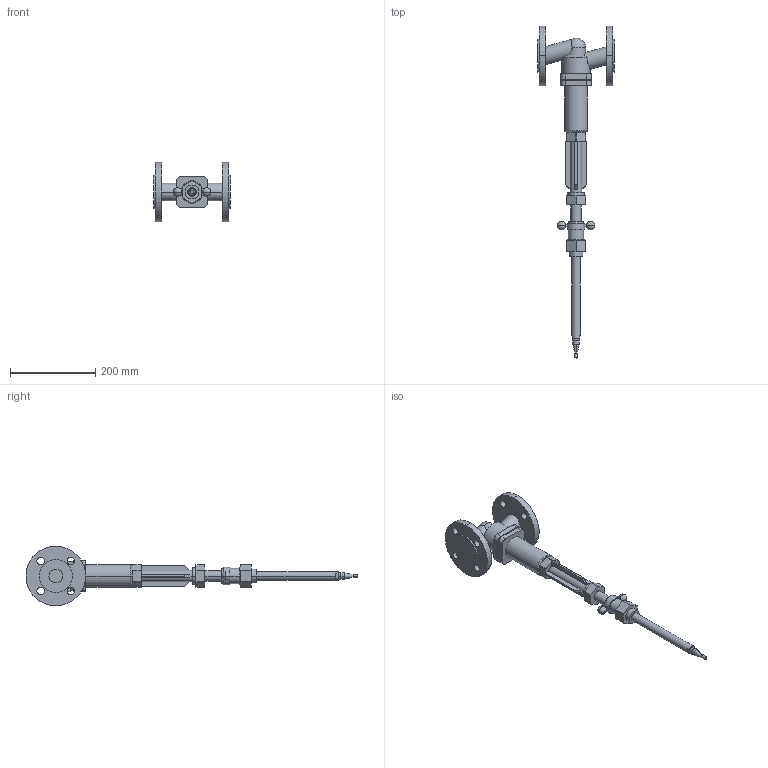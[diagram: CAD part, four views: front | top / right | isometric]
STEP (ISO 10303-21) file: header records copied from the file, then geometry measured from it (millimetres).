
FILE_DESCRIPTION(('CoCreate Modeling STEP Export'),'2;1');
FILE_NAME('c000001251.stp','2011-09-22T11:16:38',(''),(''),'CoCreate Modeling STEP processor for AP214 (Solid Model)','CoCreate Modeling 17.0 01-Apr-2010 (C) Parametric Technology GmbH','');
FILE_SCHEMA(('AUTOMOTIVE_DESIGN { 1 0 10303 214 1 1 1 1 }'));
Length unit declared in the file: millimetre
Products named in the file (1): 1
Bounding box: 180 x 780.05 x 140 mm (x, y, z)
Volume: 1555027.4 mm3; surface area: 206229.5 mm2
Topology: 1 solids, 1 shells, 204 faces, 519 edges, 334 vertices
Faces by surface type: plane 92, cylinder 90, sphere 10, cone 10, torus 2
Entity records: 9389 total; most frequent: CARTESIAN_POINT 3194, ORIENTED_EDGE 1018, DIRECTION 843, EDGE_CURVE 509, VERTEX_POINT 334, AXIS2_PLACEMENT_3D 295, VECTOR 253, LINE 253
